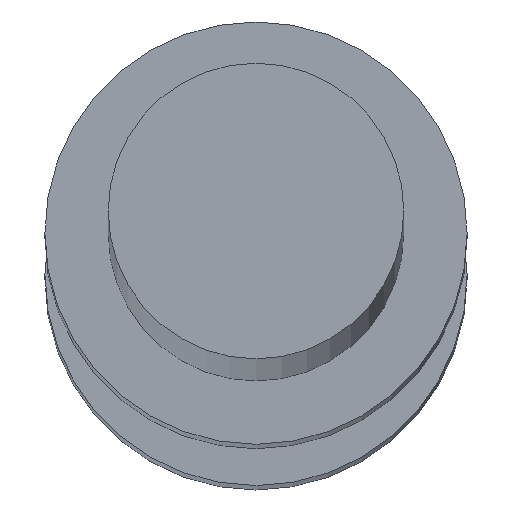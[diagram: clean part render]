
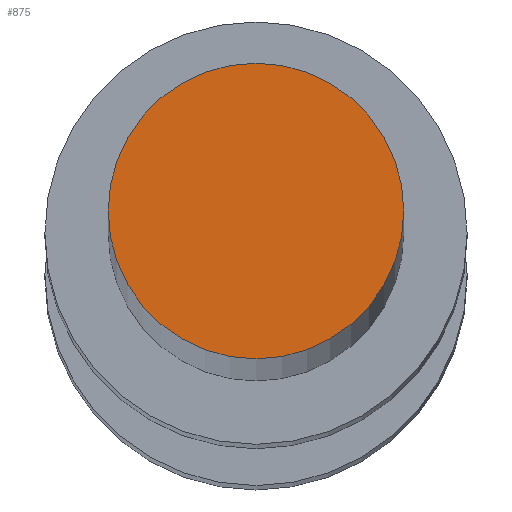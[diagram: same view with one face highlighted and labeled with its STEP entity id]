
A CAD part, top view. The second image highlights one B-rep face of the part: STEP entity #875.
In plain terms, the highlighted planar face has unit normal (0, 0, 1).
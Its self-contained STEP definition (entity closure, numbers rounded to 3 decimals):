
#8 = FACE_OUTER_BOUND ( 'NONE', #119, .T. ) ;
#75 = DIRECTION ( 'NONE',  ( 0., 0., 1. ) ) ;
#79 = CARTESIAN_POINT ( 'NONE',  ( 0., 0., 36. ) ) ;
#119 = EDGE_LOOP ( 'NONE', ( #573, #791 ) ) ;
#201 = CIRCLE ( 'NONE', #585, 0.35 ) ;
#207 = CIRCLE ( 'NONE', #829, 0.35 ) ;
#222 = EDGE_CURVE ( 'NONE', #951, #836, #201, .T. ) ;
#233 = DIRECTION ( 'NONE',  ( 1., 0., 0. ) ) ;
#280 = CARTESIAN_POINT ( 'NONE',  ( 0.35, 0., 36. ) ) ;
#299 = PLANE ( 'NONE',  #934 ) ;
#479 = DIRECTION ( 'NONE',  ( 1., 0., 0. ) ) ;
#573 = ORIENTED_EDGE ( 'NONE', *, *, #903, .T. ) ;
#585 = AXIS2_PLACEMENT_3D ( 'NONE', #937, #917, #479 ) ;
#605 = CARTESIAN_POINT ( 'NONE',  ( 0., 0., 36. ) ) ;
#606 = CARTESIAN_POINT ( 'NONE',  ( -0.35, 0., 36. ) ) ;
#791 = ORIENTED_EDGE ( 'NONE', *, *, #222, .T. ) ;
#829 = AXIS2_PLACEMENT_3D ( 'NONE', #605, #920, #233 ) ;
#834 = DIRECTION ( 'NONE',  ( 1., 0., 0. ) ) ;
#836 = VERTEX_POINT ( 'NONE', #606 ) ;
#875 = ADVANCED_FACE ( 'NONE', ( #8 ), #299, .T. ) ;
#903 = EDGE_CURVE ( 'NONE', #836, #951, #207, .T. ) ;
#917 = DIRECTION ( 'NONE',  ( 0., 0., 1. ) ) ;
#920 = DIRECTION ( 'NONE',  ( 0., 0., 1. ) ) ;
#934 = AXIS2_PLACEMENT_3D ( 'NONE', #79, #75, #834 ) ;
#937 = CARTESIAN_POINT ( 'NONE',  ( 0., 0., 36. ) ) ;
#951 = VERTEX_POINT ( 'NONE', #280 ) ;
